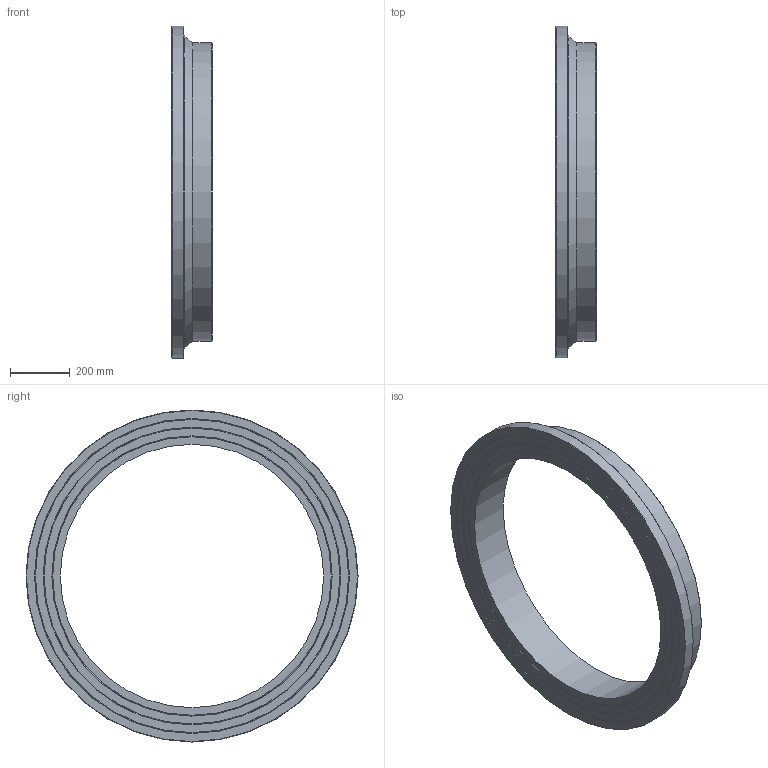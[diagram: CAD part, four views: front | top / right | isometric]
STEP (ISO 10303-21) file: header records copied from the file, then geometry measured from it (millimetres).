
FILE_DESCRIPTION(/* description */ ('Unknown'),/* implementation_level */ '2;1');
FILE_NAME(/* name */ 'CCP1000B',/* time_stamp */ '2022-04-05T09:03:40+02:00',/* author */ ('Unknown'),/* organization */ ('Unknown'),/* preprocessor_version */ 'ST-DEVELOPER v18.1',/* originating_system */ 'Solid Edge',/* authorisation */ 'Unknown');
FILE_SCHEMA (('AUTOMOTIVE_DESIGN {1 0 10303 214 3 1 1}'));
Length unit declared in the file: millimetre
Products named in the file (1): CCP1000B
Bounding box: 135 x 1111 x 1111 mm (x, y, z)
Volume: 32118825.4 mm3; surface area: 1477390 mm2
Topology: 1 solids, 1 shells, 20 faces, 35 edges, 21 vertices
Faces by surface type: cone 10, plane 6, cylinder 3, torus 1
Full cylindrical faces by diameter (mm): 881.4 x1, 1000 x1, 1111 x1
Entity records: 438 total; most frequent: DIRECTION 82, CARTESIAN_POINT 61, AXIS2_PLACEMENT_3D 41, ORIENTED_EDGE 40, EDGE_LOOP 40, FACE_BOUND 40, EDGE_CURVE 20, VERTEX_POINT 20
